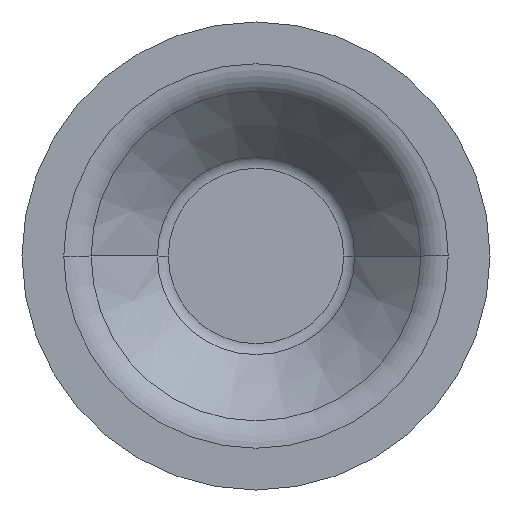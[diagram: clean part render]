
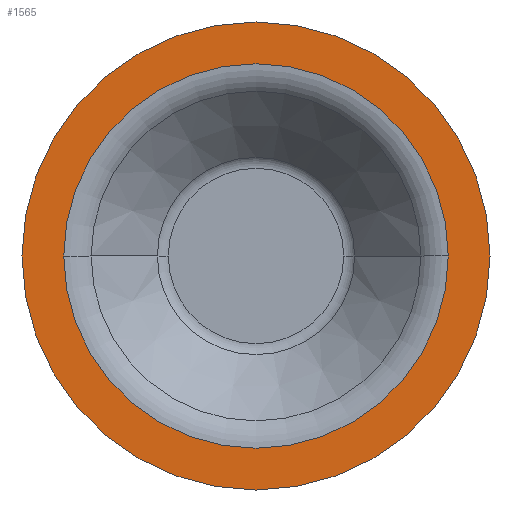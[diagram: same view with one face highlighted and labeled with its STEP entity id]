
A CAD part, front view. The second image highlights one B-rep face of the part: STEP entity #1565.
In plain terms, the highlighted planar face has unit normal (0, -1, 0).
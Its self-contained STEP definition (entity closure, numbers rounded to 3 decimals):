
#93 = DIRECTION ( 'NONE',  ( 1., 0., 0. ) ) ;
#102 = AXIS2_PLACEMENT_3D ( 'NONE', #902, #1406, #269 ) ;
#223 = EDGE_CURVE ( 'NONE', #835, #527, #278, .T. ) ;
#231 = DIRECTION ( 'NONE',  ( -1., 0., 0. ) ) ;
#238 = AXIS2_PLACEMENT_3D ( 'NONE', #595, #1598, #93 ) ;
#242 = CARTESIAN_POINT ( 'NONE',  ( 0., -15., 0. ) ) ;
#269 = DIRECTION ( 'NONE',  ( 1., 0., 0. ) ) ;
#278 = CIRCLE ( 'NONE', #102, 31.5 ) ;
#279 = DIRECTION ( 'NONE',  ( 0., -1., 0. ) ) ;
#286 = VERTEX_POINT ( 'NONE', #576 ) ;
#307 = ORIENTED_EDGE ( 'NONE', *, *, #223, .T. ) ;
#318 = CARTESIAN_POINT ( 'NONE',  ( -25.88, -15., 0. ) ) ;
#339 = FACE_BOUND ( 'NONE', #798, .T. ) ;
#403 = ORIENTED_EDGE ( 'NONE', *, *, #894, .T. ) ;
#413 = EDGE_CURVE ( 'NONE', #1109, #286, #734, .T. ) ;
#502 = EDGE_LOOP ( 'NONE', ( #307, #403 ) ) ;
#527 = VERTEX_POINT ( 'NONE', #723 ) ;
#560 = AXIS2_PLACEMENT_3D ( 'NONE', #1249, #615, #231 ) ;
#576 = CARTESIAN_POINT ( 'NONE',  ( 25.88, -15., 0. ) ) ;
#595 = CARTESIAN_POINT ( 'NONE',  ( 31.5, -15., 0. ) ) ;
#615 = DIRECTION ( 'NONE',  ( 0., -1., 0. ) ) ;
#723 = CARTESIAN_POINT ( 'NONE',  ( -31.5, -15., 0. ) ) ;
#734 = CIRCLE ( 'NONE', #1081, 25.88 ) ;
#798 = EDGE_LOOP ( 'NONE', ( #1300, #937 ) ) ;
#835 = VERTEX_POINT ( 'NONE', #1112 ) ;
#894 = EDGE_CURVE ( 'NONE', #527, #835, #1133, .T. ) ;
#902 = CARTESIAN_POINT ( 'NONE',  ( 0., -15., 0. ) ) ;
#917 = AXIS2_PLACEMENT_3D ( 'NONE', #1416, #279, #1148 ) ;
#937 = ORIENTED_EDGE ( 'NONE', *, *, #1218, .F. ) ;
#1081 = AXIS2_PLACEMENT_3D ( 'NONE', #242, #1402, #1177 ) ;
#1109 = VERTEX_POINT ( 'NONE', #318 ) ;
#1112 = CARTESIAN_POINT ( 'NONE',  ( 31.5, -15., 0. ) ) ;
#1133 = CIRCLE ( 'NONE', #917, 31.5 ) ;
#1148 = DIRECTION ( 'NONE',  ( 1., 0., 0. ) ) ;
#1177 = DIRECTION ( 'NONE',  ( -1., 0., 0. ) ) ;
#1218 = EDGE_CURVE ( 'NONE', #286, #1109, #1568, .T. ) ;
#1229 = FACE_OUTER_BOUND ( 'NONE', #502, .T. ) ;
#1249 = CARTESIAN_POINT ( 'NONE',  ( 0., -15., 0. ) ) ;
#1300 = ORIENTED_EDGE ( 'NONE', *, *, #413, .F. ) ;
#1402 = DIRECTION ( 'NONE',  ( 0., -1., 0. ) ) ;
#1406 = DIRECTION ( 'NONE',  ( 0., -1., 0. ) ) ;
#1416 = CARTESIAN_POINT ( 'NONE',  ( 0., -15., 0. ) ) ;
#1483 = PLANE ( 'NONE',  #238 ) ;
#1565 = ADVANCED_FACE ( 'NONE', ( #339, #1229 ), #1483, .T. ) ;
#1568 = CIRCLE ( 'NONE', #560, 25.88 ) ;
#1598 = DIRECTION ( 'NONE',  ( 0., -1., 0. ) ) ;
